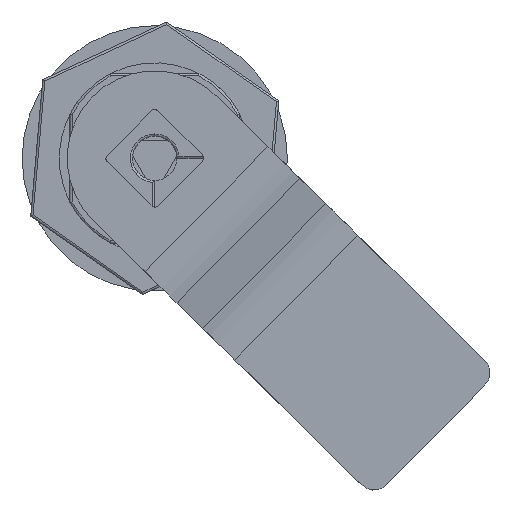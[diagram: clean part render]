
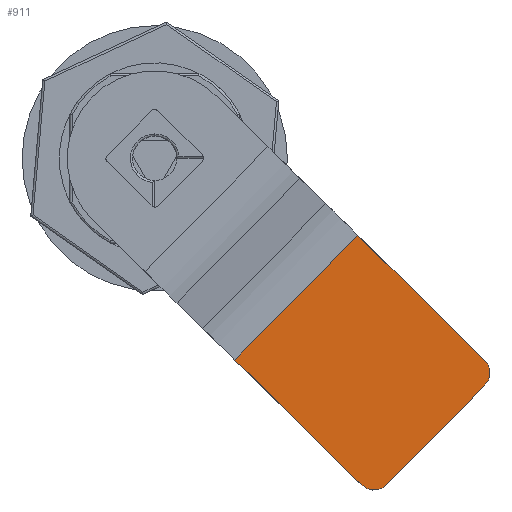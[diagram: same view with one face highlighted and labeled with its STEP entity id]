
A CAD part, front view. The second image highlights one B-rep face of the part: STEP entity #911.
In plain terms, the highlighted planar face has unit normal (0, -1, 0).
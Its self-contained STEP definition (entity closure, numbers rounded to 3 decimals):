
#72 = CARTESIAN_POINT ( 'NONE',  ( 641.94, 823.292, 1275.745 ) ) ;
#96 = VERTEX_POINT ( 'NONE', #1188 ) ;
#124 = VERTEX_POINT ( 'NONE', #2014 ) ;
#153 = VECTOR ( 'NONE', #3453, 1000. ) ;
#213 = CARTESIAN_POINT ( 'NONE',  ( 643.979, 823.292, 1273.739 ) ) ;
#243 = ORIENTED_EDGE ( 'NONE', *, *, #1000, .T. ) ;
#246 = AXIS2_PLACEMENT_3D ( 'NONE', #1709, #2334, #2615 ) ;
#319 = CARTESIAN_POINT ( 'NONE',  ( 659.758, 823.292, 1258.209 ) ) ;
#355 = EDGE_CURVE ( 'NONE', #124, #3823, #1613, .T. ) ;
#359 = ORIENTED_EDGE ( 'NONE', *, *, #355, .F. ) ;
#414 = VERTEX_POINT ( 'NONE', #1634 ) ;
#459 = CARTESIAN_POINT ( 'NONE',  ( 655.829, 823.292, 1289.857 ) ) ;
#619 = VECTOR ( 'NONE', #1528, 1000. ) ;
#866 = DIRECTION ( 'NONE',  ( -0.701, 0., -0.713 ) ) ;
#911 = ADVANCED_FACE ( 'NONE', ( #1385 ), #2866, .F. ) ;
#1000 = EDGE_CURVE ( 'NONE', #2928, #1344, #1854, .T. ) ;
#1188 = CARTESIAN_POINT ( 'NONE',  ( 672.221, 823.292, 1273.723 ) ) ;
#1281 = ORIENTED_EDGE ( 'NONE', *, *, #2087, .T. ) ;
#1344 = VERTEX_POINT ( 'NONE', #3505 ) ;
#1371 = AXIS2_PLACEMENT_3D ( 'NONE', #72, #3191, #2205 ) ;
#1385 = FACE_OUTER_BOUND ( 'NONE', #3489, .T. ) ;
#1528 = DIRECTION ( 'NONE',  ( -0.713, 0., 0.701 ) ) ;
#1613 = LINE ( 'NONE', #2844, #153 ) ;
#1634 = CARTESIAN_POINT ( 'NONE',  ( 657.868, 823.292, 1287.85 ) ) ;
#1699 = CARTESIAN_POINT ( 'NONE',  ( 661.161, 823.292, 1259.634 ) ) ;
#1709 = CARTESIAN_POINT ( 'NONE',  ( 659.735, 823.292, 1261.037 ) ) ;
#1735 = VECTOR ( 'NONE', #866, 1000. ) ;
#1797 = CIRCLE ( 'NONE', #3142, 2. ) ;
#1838 = DIRECTION ( 'NONE',  ( 0.701, 0., 0.713 ) ) ;
#1854 = LINE ( 'NONE', #319, #3362 ) ;
#1874 = LINE ( 'NONE', #459, #619 ) ;
#1909 = EDGE_CURVE ( 'NONE', #1344, #96, #1797, .T. ) ;
#1940 = EDGE_CURVE ( 'NONE', #414, #3823, #2869, .T. ) ;
#2014 = CARTESIAN_POINT ( 'NONE',  ( 658.333, 823.292, 1259.612 ) ) ;
#2080 = CARTESIAN_POINT ( 'NONE',  ( 670.818, 823.292, 1272.298 ) ) ;
#2087 = EDGE_CURVE ( 'NONE', #96, #414, #1874, .T. ) ;
#2205 = DIRECTION ( 'NONE',  ( 0.713, 0., -0.701 ) ) ;
#2334 = DIRECTION ( 'NONE',  ( 0., -1., 0. ) ) ;
#2615 = DIRECTION ( 'NONE',  ( 0.713, 0., -0.701 ) ) ;
#2781 = ORIENTED_EDGE ( 'NONE', *, *, #3081, .T. ) ;
#2844 = CARTESIAN_POINT ( 'NONE',  ( 641.94, 823.292, 1275.745 ) ) ;
#2866 = PLANE ( 'NONE',  #1371 ) ;
#2869 = LINE ( 'NONE', #213, #1735 ) ;
#2928 = VERTEX_POINT ( 'NONE', #1699 ) ;
#3028 = CIRCLE ( 'NONE', #246, 2. ) ;
#3081 = EDGE_CURVE ( 'NONE', #124, #2928, #3028, .T. ) ;
#3142 = AXIS2_PLACEMENT_3D ( 'NONE', #2080, #3295, #3891 ) ;
#3191 = DIRECTION ( 'NONE',  ( 0., 1., 0. ) ) ;
#3196 = ORIENTED_EDGE ( 'NONE', *, *, #1940, .T. ) ;
#3295 = DIRECTION ( 'NONE',  ( 0., -1., 0. ) ) ;
#3296 = ORIENTED_EDGE ( 'NONE', *, *, #1909, .T. ) ;
#3362 = VECTOR ( 'NONE', #1838, 1000. ) ;
#3453 = DIRECTION ( 'NONE',  ( -0.713, 0., 0.701 ) ) ;
#3489 = EDGE_LOOP ( 'NONE', ( #1281, #3196, #359, #2781, #243, #3296 ) ) ;
#3505 = CARTESIAN_POINT ( 'NONE',  ( 672.244, 823.292, 1270.895 ) ) ;
#3823 = VERTEX_POINT ( 'NONE', #3928 ) ;
#3891 = DIRECTION ( 'NONE',  ( 0.713, 0., -0.701 ) ) ;
#3928 = CARTESIAN_POINT ( 'NONE',  ( 643.979, 823.292, 1273.739 ) ) ;
